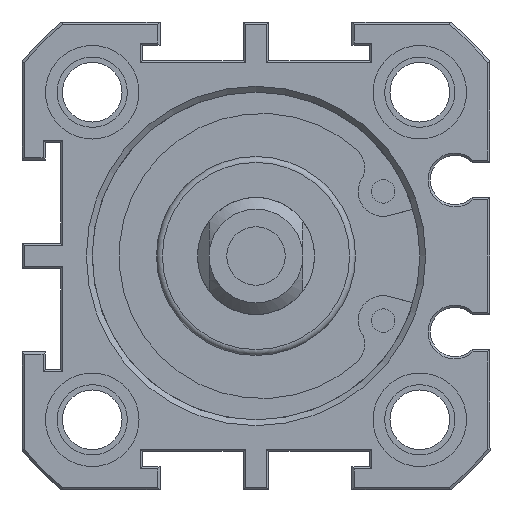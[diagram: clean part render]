
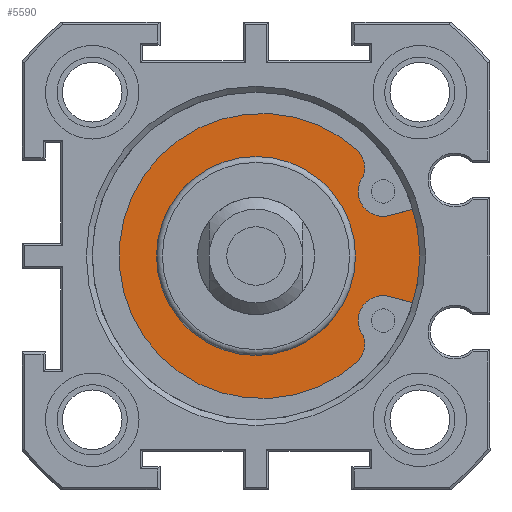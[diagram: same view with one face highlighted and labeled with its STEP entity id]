
A CAD part, front view. The second image highlights one B-rep face of the part: STEP entity #5590.
In plain terms, the highlighted planar face has unit normal (0, -1, 0).
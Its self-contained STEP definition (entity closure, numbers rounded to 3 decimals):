
#34=LINE('',#7525,#390);
#35=LINE('',#7537,#391);
#390=VECTOR('',#6409,1000.);
#391=VECTOR('',#6420,1000.);
#954=ORIENTED_EDGE('',*,*,#1947,.T.);
#955=ORIENTED_EDGE('',*,*,#1950,.F.);
#956=ORIENTED_EDGE('',*,*,#1951,.T.);
#957=ORIENTED_EDGE('',*,*,#1952,.T.);
#958=ORIENTED_EDGE('',*,*,#1953,.T.);
#959=ORIENTED_EDGE('',*,*,#1954,.T.);
#960=ORIENTED_EDGE('',*,*,#1955,.T.);
#961=ORIENTED_EDGE('',*,*,#1956,.T.);
#962=ORIENTED_EDGE('',*,*,#1957,.T.);
#1947=EDGE_CURVE('',#2462,#2462,#2789,.T.);
#1950=EDGE_CURVE('',#2465,#2466,#2792,.T.);
#1951=EDGE_CURVE('',#2465,#2467,#34,.T.);
#1952=EDGE_CURVE('',#2467,#2468,#2793,.T.);
#1953=EDGE_CURVE('',#2468,#2469,#2794,.T.);
#1954=EDGE_CURVE('',#2469,#2470,#2795,.T.);
#1955=EDGE_CURVE('',#2470,#2471,#2796,.T.);
#1956=EDGE_CURVE('',#2471,#2472,#2797,.T.);
#1957=EDGE_CURVE('',#2472,#2466,#35,.T.);
#2462=VERTEX_POINT('',#7514);
#2465=VERTEX_POINT('',#7523);
#2466=VERTEX_POINT('',#7524);
#2467=VERTEX_POINT('',#7526);
#2468=VERTEX_POINT('',#7528);
#2469=VERTEX_POINT('',#7530);
#2470=VERTEX_POINT('',#7532);
#2471=VERTEX_POINT('',#7534);
#2472=VERTEX_POINT('',#7536);
#2789=CIRCLE('',#5900,8.5);
#2792=CIRCLE('',#5906,14.7);
#2793=CIRCLE('',#5907,2.134);
#2794=CIRCLE('',#5908,2.134);
#2795=CIRCLE('',#5909,12.185);
#2796=CIRCLE('',#5910,2.134);
#2797=CIRCLE('',#5911,2.134);
#2955=EDGE_LOOP('',(#954));
#2956=EDGE_LOOP('',(#955,#956,#957,#958,#959,#960,#961,#962));
#3289=FACE_BOUND('',#2955,.T.);
#3290=FACE_BOUND('',#2956,.T.);
#3565=PLANE('',#5905);
#5590=ADVANCED_FACE('',(#3289,#3290),#3565,.F.);
#5900=AXIS2_PLACEMENT_3D('',#7513,#6395,#6396);
#5905=AXIS2_PLACEMENT_3D('',#7521,#6405,#6406);
#5906=AXIS2_PLACEMENT_3D('',#7522,#6407,#6408);
#5907=AXIS2_PLACEMENT_3D('',#7527,#6410,#6411);
#5908=AXIS2_PLACEMENT_3D('',#7529,#6412,#6413);
#5909=AXIS2_PLACEMENT_3D('',#7531,#6414,#6415);
#5910=AXIS2_PLACEMENT_3D('',#7533,#6416,#6417);
#5911=AXIS2_PLACEMENT_3D('',#7535,#6418,#6419);
#6395=DIRECTION('',(0.,1.,0.));
#6396=DIRECTION('',(0.,0.,1.));
#6405=DIRECTION('',(0.,1.,0.));
#6406=DIRECTION('',(0.,0.,1.));
#6407=DIRECTION('',(0.,1.,0.));
#6408=DIRECTION('',(0.,0.,1.));
#6409=DIRECTION('',(-0.966,0.,-0.259));
#6410=DIRECTION('',(0.,1.,0.));
#6411=DIRECTION('',(1.,0.,0.));
#6412=DIRECTION('',(0.,-1.,0.));
#6413=DIRECTION('',(-1.,0.,0.));
#6414=DIRECTION('',(0.,-1.,0.));
#6415=DIRECTION('',(1.,0.,0.));
#6416=DIRECTION('',(0.,-1.,0.));
#6417=DIRECTION('',(-1.,0.,0.));
#6418=DIRECTION('',(0.,1.,0.));
#6419=DIRECTION('',(1.,0.,0.));
#6420=DIRECTION('',(0.966,0.,-0.259));
#7513=CARTESIAN_POINT('',(0.,3.,0.));
#7514=CARTESIAN_POINT('',(0.,3.,8.5));
#7521=CARTESIAN_POINT('',(0.,3.,-2.1));
#7522=CARTESIAN_POINT('',(0.,3.,0.));
#7523=CARTESIAN_POINT('',(14.095,3.,4.175));
#7524=CARTESIAN_POINT('',(14.095,3.,-4.175));
#7525=CARTESIAN_POINT('',(14.095,3.,4.175));
#7526=CARTESIAN_POINT('',(11.419,3.,3.458));
#7527=CARTESIAN_POINT('',(10.866,3.,5.52));
#7528=CARTESIAN_POINT('',(9.146,3.,6.783));
#7529=CARTESIAN_POINT('',(7.151,3.,7.541));
#7530=CARTESIAN_POINT('',(8.751,3.,8.953));
#7531=CARTESIAN_POINT('',(0.486,3.,0.));
#7532=CARTESIAN_POINT('',(8.751,3.,-8.953));
#7533=CARTESIAN_POINT('',(7.151,3.,-7.541));
#7534=CARTESIAN_POINT('',(9.146,3.,-6.783));
#7535=CARTESIAN_POINT('',(10.866,3.,-5.52));
#7536=CARTESIAN_POINT('',(11.419,3.,-3.458));
#7537=CARTESIAN_POINT('',(11.419,3.,-3.458));
